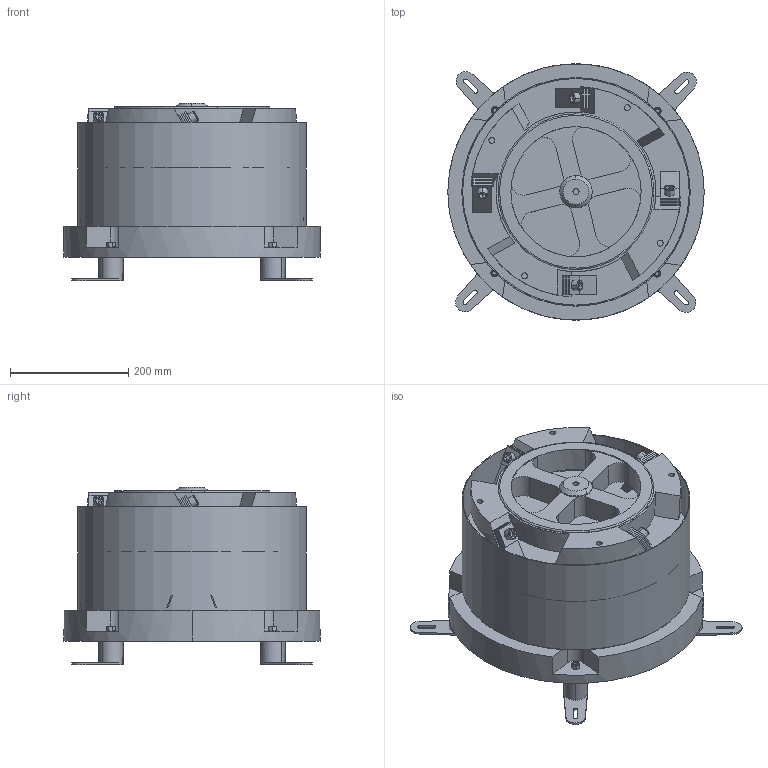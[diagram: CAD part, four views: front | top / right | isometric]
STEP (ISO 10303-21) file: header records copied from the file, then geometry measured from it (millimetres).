
FILE_DESCRIPTION(/* description */ (''),/* implementation_level */ '2;1');
FILE_NAME(/* name */ 'DE400 长片 铝盖.stp',/* time_stamp */ '2025-07-17T21:05:59+08:00',/* author */ (''),/* organization */ (''),/* preprocessor_version */ 'ST-DEVELOPER v18.102',/* originating_system */ 'SIEMENS PLM Software NX2206.1700',/* authorisation */ '');
FILE_SCHEMA (('AP203_CONFIGURATION_CONTROLLED_3D_DESIGN_OF_MECHANICAL_PARTS_AND_ASSEMBLIES_MIM_LF { 1 0 10303 403 2 1 2}'));
Length unit declared in the file: millimetre
Products named in the file (1): DE400  长片  铝盖 2023_stp_object
s
Bounding box: 433 x 433 x 300 mm (x, y, z)
Volume: 18157819.6 mm3; surface area: 1368800.5 mm2
Topology: 35 solids, 37 shells, 633 faces, 1505 edges, 975 vertices
Faces by surface type: plane 341, cylinder 203, cone 62, torus 27
Full cylindrical faces by diameter (mm): 10 x4, 10.2 x1, 28.01 x4, 383 x2, 386 x1
Entity records: 20333 total; most frequent: CARTESIAN_POINT 5051, DIRECTION 3176, ORIENTED_EDGE 2982, EDGE_CURVE 1491, AXIS2_PLACEMENT_3D 1214, VERTEX_POINT 981, EDGE_LOOP 758, LINE 748
